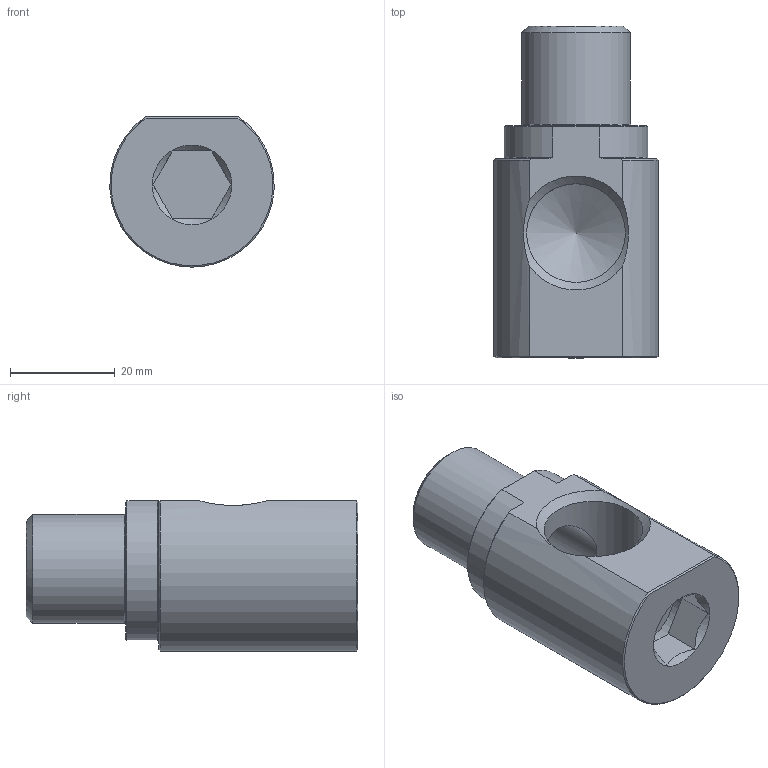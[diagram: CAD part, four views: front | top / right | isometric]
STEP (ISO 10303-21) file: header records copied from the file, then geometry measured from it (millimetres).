
FILE_DESCRIPTION(/* description */ (''),/* implementation_level */ '2;1');
FILE_NAME(/* name */ 'C:/Users/drich/Desktop/EKL50 X 2.5 v2.step',/* time_stamp */ '2019-11-18T14:43:09-06:00',/* author */ (''),/* organization */ (''),/* preprocessor_version */ 'ST-DEVELOPER v18',/* originating_system */ 'Autodesk Translation Framework v8.12.0.6',/* authorisation */ '');
FILE_SCHEMA (('AUTOMOTIVE_DESIGN { 1 0 10303 214 3 1 1 }'));
Length unit declared in the file: inch
Products named in the file (2): EKL50 X 2.5; EKL50X 2-1/2
Assembly tree (1 placements, depth 2):
  EKL50 X 2.5
    EKL50X 2-1/2
Bounding box: 31.46 x 63.5 x 28.75 mm (x, y, z)
Volume: 25833.6 mm3; surface area: 9659 mm2
Topology: 1 solids, 1 shells, 32 faces, 81 edges, 53 vertices
Faces by surface type: plane 16, cone 10, cylinder 6
Full cylindrical faces by diameter (mm): 14.275 x1, 14.986 x1, 18.901 x1, 20.813 x1
Entity records: 1072 total; most frequent: CARTESIAN_POINT 263, ORIENTED_EDGE 160, DIRECTION 156, EDGE_CURVE 80, AXIS2_PLACEMENT_3D 61, VERTEX_POINT 53, EDGE_LOOP 37, LINE 34
